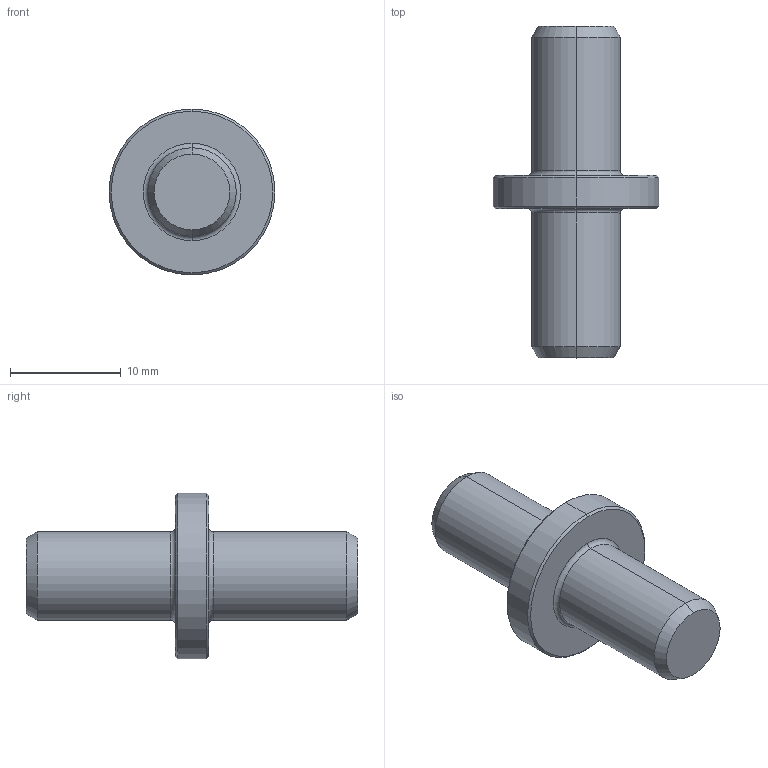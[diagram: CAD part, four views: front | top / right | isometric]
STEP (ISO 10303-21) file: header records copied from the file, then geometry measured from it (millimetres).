
FILE_DESCRIPTION (( 'STEP AP203' ), '1' );
FILE_NAME ('013.100.021.STEP', '2020-11-26T14:13:15', ( '' ), ( '' ), 'SwSTEP 2.0', 'SolidWorks 2018', '' );
FILE_SCHEMA (( 'CONFIG_CONTROL_DESIGN' ));
Length unit declared in the file: millimetre
Products named in the file (1): 013.100.021
Bounding box: 15 x 30 x 15 mm (x, y, z)
Volume: 1873.4 mm3; surface area: 1130.4 mm2
Topology: 1 solids, 1 shells, 22 faces, 42 edges, 24 vertices
Faces by surface type: cone 8, cylinder 6, torus 4, plane 4
Entity records: 635 total; most frequent: DIRECTION 116, CARTESIAN_POINT 89, ORIENTED_EDGE 84, AXIS2_PLACEMENT_3D 51, EDGE_CURVE 42, CIRCLE 28, EDGE_LOOP 24, VERTEX_POINT 24
